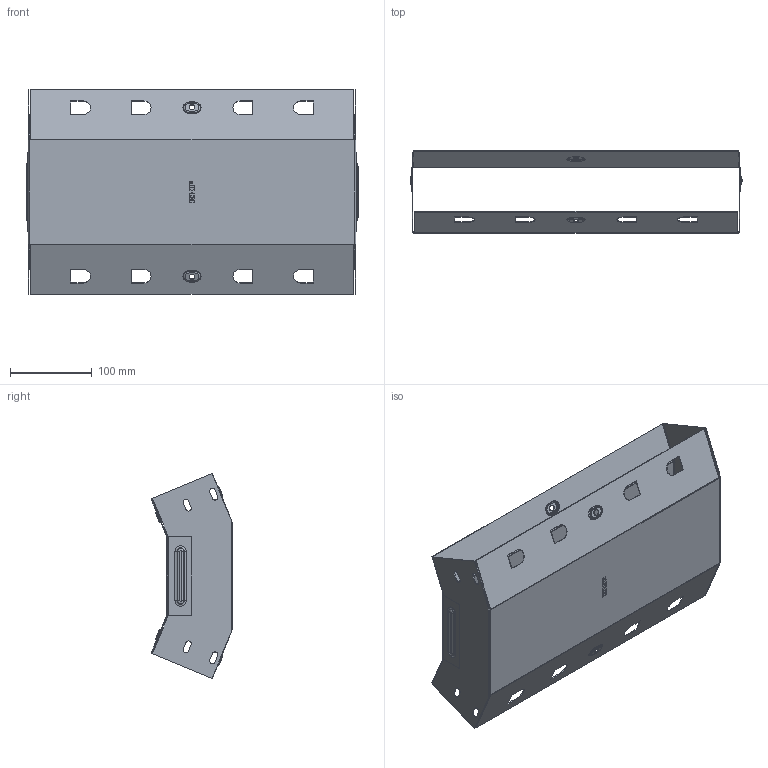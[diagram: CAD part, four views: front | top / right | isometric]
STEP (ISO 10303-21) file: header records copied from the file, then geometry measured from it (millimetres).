
FILE_DESCRIPTION (( 'STEP AP214' ), '1' );
FILE_NAME ('vi4580400_捘.STEP', '2019-06-10T08:31:26', ( '砐錪賧瘔蠈錪 Windows' ), ( '' ), 'SwSTEP 2.0', 'SolidWorks 2018', '' );
FILE_SCHEMA (( 'AUTOMOTIVE_DESIGN' ));
Length unit declared in the file: millimetre
Products named in the file (1): vi4580400_捘
Bounding box: 405.6 x 99.93 x 250.25 mm (x, y, z)
Volume: 175379.4 mm3; surface area: 441924.9 mm2
Topology: 2 solids, 2 shells, 468 faces, 1212 edges, 776 vertices
Faces by surface type: plane 254, cylinder 132, torus 64, bspline 18
Entity records: 15224 total; most frequent: CARTESIAN_POINT 3476, DIRECTION 2438, ORIENTED_EDGE 2424, EDGE_CURVE 1212, LINE 816, VECTOR 816, AXIS2_PLACEMENT_3D 811, VERTEX_POINT 776
